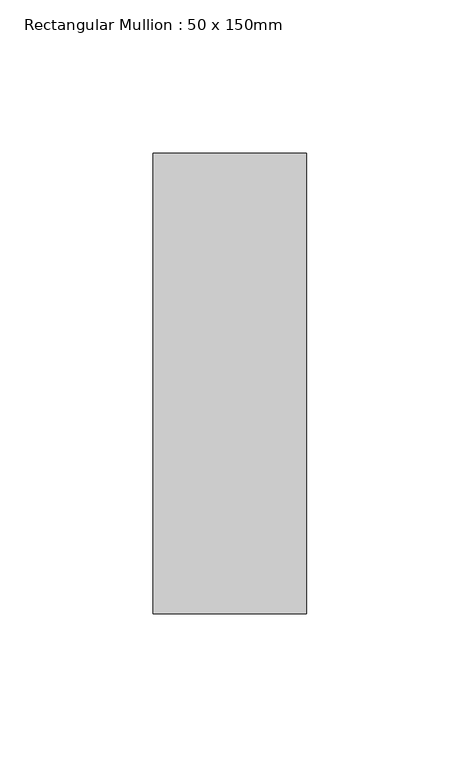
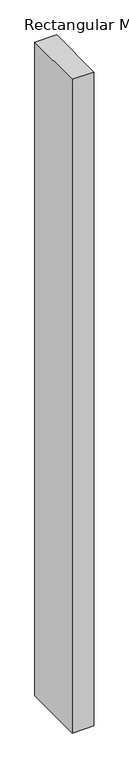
"""IFC4 building model written with IfcOpenShell, lengths in millimetres: member geometry, Rectangular Mullion : 50 x 150mm."""

from ifc_helpers import new_model, si_unit, frame, origin, place, context, project, spatial, polyline, outline, extrude, source, transform, mapped, element, save


def rectangular_mullion_50_x_150mm_668b38bd(model_context):
    return source(origin(), model_context, "Body", "SweptSolid", [
        extrude(outline(polyline([(0.0, 0.0), (-0.2123352, -50.0), (-1599.5849242, -50.0), (-1599.707306, 0.0), (0.0, 0.0)])), frame((0.0, -75.0, 0.0), z_axis=(0.0, 1.0, 0.0), x_axis=(0.0, 0.0, 1.0)), (0.0, 0.0, 1.0), 150.0),
    ])


if __name__ == "__main__":
    model = new_model("IFC4")
    model_context = context("Model", 3, world=origin())
    ifc_project = project(units=[si_unit("LENGTHUNIT", "METRE", prefix="MILLI")], contexts=[model_context])
    site = spatial("IfcSite", under=ifc_project)
    building = spatial("IfcBuilding", under=site)
    placement = place(None, origin())
    rectangular_mullion_50_x_150mm_shape = rectangular_mullion_50_x_150mm_668b38bd(model_context)
    element("IfcMember", 1, ObjectType="Rectangular Mullion : 50 x 150mm", at=placement, inside=building, context=model_context, shape_type="MappedRepresentation", body=[
        mapped(rectangular_mullion_50_x_150mm_shape, transform((0.0, 0.0, 0.0), x_axis=(1.0, 0.0, 0.0), y_axis=(0.0, 1.0, 0.0), z_axis=(0.0, 0.0, 1.0))),
    ])
    save(model, "model.ifc")
